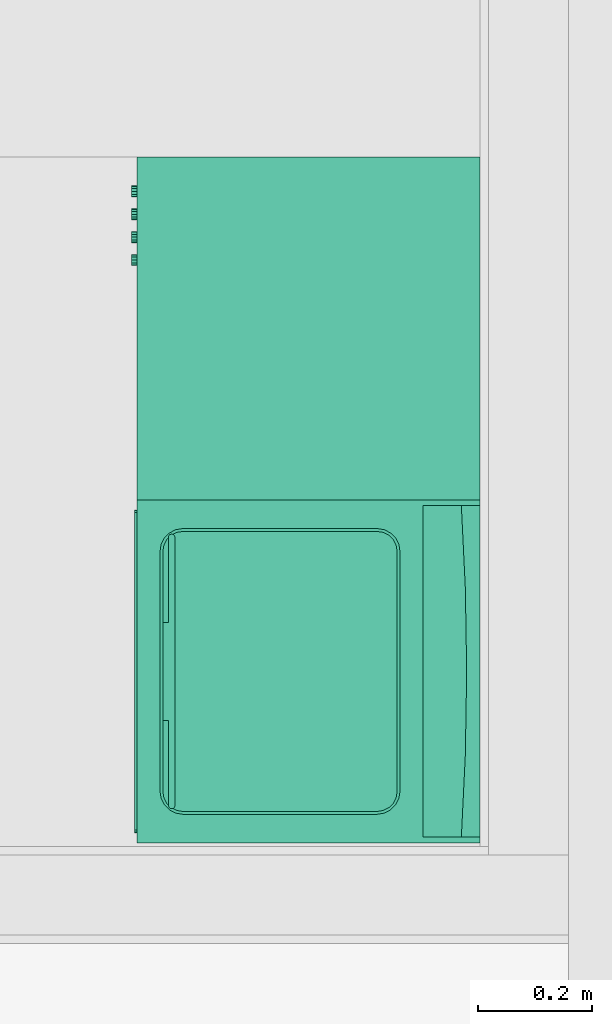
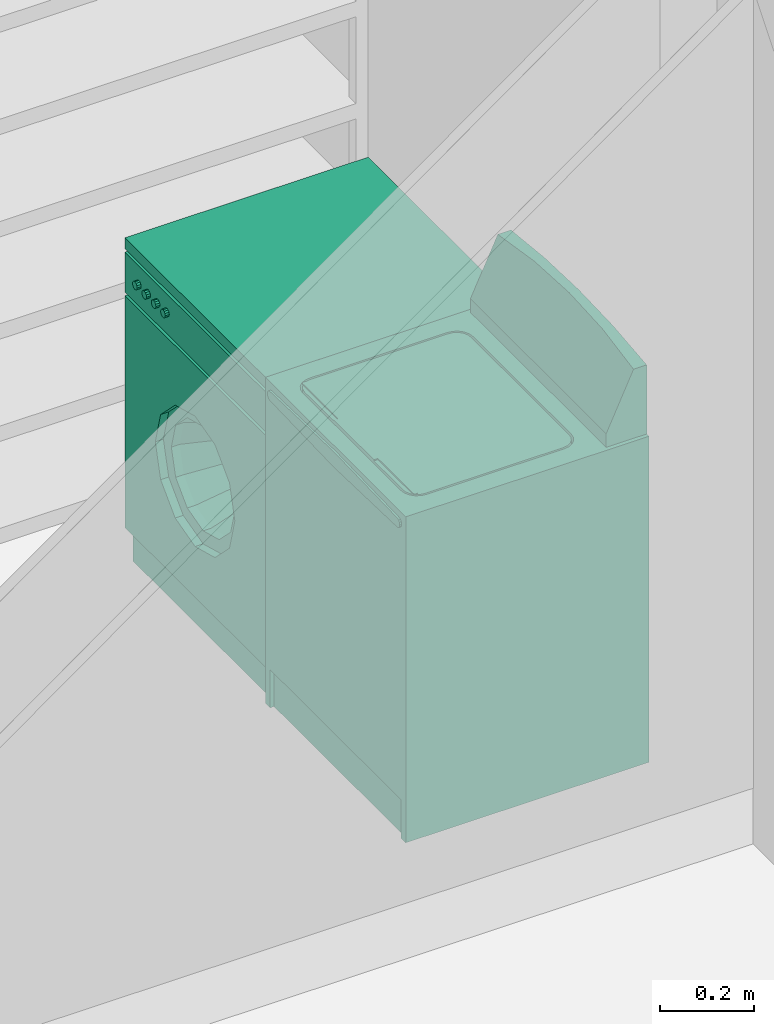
# One storey, part 18 of 24: 2 flow terminals.
"""IFC2X3 building model written with IfcOpenShell, lengths in metres."""

from ifc_helpers import new_model, entity, si_unit, converted_unit, derived_unit, money_unit, direction, frame, origin_with_axes, place, context, subcontext, project, spatial, open_shell, faceted_brep, surface_model, type_object, element, save


model = new_model("IFC2X3")

# Units and contexts
model_context = context("Model", 3, precision=1e-05, world=origin_with_axes(), true_north=direction((0.0, 1.0)))
body_context = subcontext(model_context, "Body", "Model", "MODEL_VIEW")
ifc_project = project(units=[si_unit("LENGTHUNIT", "METRE"), si_unit("AREAUNIT", "SQUARE_METRE"), si_unit("VOLUMEUNIT", "CUBIC_METRE"), converted_unit("PLANEANGLEUNIT", "DEGREE", entity("IfcPlaneAngleMeasure", 0.0174532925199), si_unit("PLANEANGLEUNIT", "RADIAN"), dimensions=[0, 0, 0, 0, 0, 0, 0]), si_unit("SOLIDANGLEUNIT", "STERADIAN"), money_unit("CHF"), converted_unit("TIMEUNIT", "Year", entity("IfcTimeMeasure", 31556926.0), si_unit("TIMEUNIT", "SECOND"), dimensions=[0, 0, 1, 0, 0, 0, 0]), si_unit("MASSUNIT", "GRAM", prefix="KILO"), si_unit("THERMODYNAMICTEMPERATUREUNIT", "DEGREE_CELSIUS"), si_unit("LUMINOUSINTENSITYUNIT", "LUMEN"), si_unit("ENERGYUNIT", "JOULE", prefix="MEGA"), derived_unit("THERMALCONDUCTANCEUNIT", [(si_unit("POWERUNIT", "WATT"), 1), (si_unit("LENGTHUNIT", "METRE"), -1), (si_unit("THERMODYNAMICTEMPERATUREUNIT", "KELVIN"), -1)]), derived_unit("SPECIFICHEATCAPACITYUNIT", [(si_unit("ENERGYUNIT", "JOULE"), 1), (si_unit("MASSUNIT", "GRAM", prefix="KILO"), -1), (si_unit("THERMODYNAMICTEMPERATUREUNIT", "KELVIN"), -1)]), derived_unit("MASSDENSITYUNIT", [(si_unit("MASSUNIT", "GRAM", prefix="KILO"), 1), (si_unit("VOLUMEUNIT", "CUBIC_METRE"), -1)])], contexts=[model_context])

# Site, building, storey
site_placement = place(None, origin_with_axes())
site = spatial("IfcSite", under=ifc_project, at=site_placement, Name="Site", CompositionType="ELEMENT")
building_placement = place(site_placement, origin_with_axes())
building = spatial("IfcBuilding", under=site, at=building_placement, Name="Bâtiment", CompositionType="ELEMENT")
storey_placement = place(building_placement, origin_with_axes())
storey = spatial("IfcBuildingStorey", under=building, at=storey_placement, Name="Rez-de-chaussée", CompositionType="ELEMENT", Elevation=0.0)

# Flow terminals
sanitary_terminal_type = type_object("IfcSanitaryTerminalType", Name="Lave linge 24", PredefinedType="TOILETPAN")
flow_terminal_1_placement = place(storey_placement, frame((31.1171417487, 15.3879346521, 0.16), z_axis=(0.0, 0.0, 1.0), x_axis=(0.0, -1.0, 0.0)))
element("IfcFlowTerminal", 1, at=flow_terminal_1_placement, inside=storey, type_object=sanitary_terminal_type, Name="MOBILIER-010", context=body_context, shape_type="SurfaceModel", body=[
    faceted_brep([(-0.3, -0.58, 0.0944444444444), (0.3, -0.58, 0.0944444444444), (0.3, -0.6, 0.0944444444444), (-0.3, -0.6, 0.0944444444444), (-0.3, -0.58, 0.698888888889), (0.3, -0.58, 0.698888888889), (0.17, -0.58, 0.396666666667), (0.147224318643, -0.58, 0.481666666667), (0.085, -0.58, 0.54389098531), (0.0, -0.58, 0.566666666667), (-0.085, -0.58, 0.54389098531), (-0.147224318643, -0.58, 0.481666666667), (-0.17, -0.58, 0.396666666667), (-0.147224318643, -0.58, 0.311666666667), (-0.085, -0.58, 0.249442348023), (0.0, -0.58, 0.226666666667), (0.085, -0.58, 0.249442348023), (0.147224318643, -0.58, 0.311666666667), (0.3, -0.6, 0.698888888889), (-0.3, -0.6, 0.698888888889), (0.17, -0.6, 0.396666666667), (0.147224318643, -0.6, 0.311666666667), (0.085, -0.6, 0.249442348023), (0.0, -0.6, 0.226666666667), (-0.085, -0.6, 0.249442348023), (-0.147224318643, -0.6, 0.311666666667), (-0.17, -0.6, 0.396666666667), (-0.147224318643, -0.6, 0.481666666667), (-0.085, -0.6, 0.54389098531), (0.0, -0.6, 0.566666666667), (0.085, -0.6, 0.54389098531), (0.147224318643, -0.6, 0.481666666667)], [[[0, 1, 2, 3]], [[0, 4, 5, 1], [6, 7, 8, 9, 10, 11, 12, 13, 14, 15, 16, 17]], [[1, 5, 18, 2]], [[3, 2, 18, 19], [20, 21, 22, 23, 24, 25, 26, 27, 28, 29, 30, 31]], [[4, 0, 3, 19]], [[5, 4, 19, 18]], [[7, 6, 20, 31]], [[8, 7, 31, 30]], [[9, 8, 30, 29]], [[10, 9, 29, 28]], [[11, 10, 28, 27]], [[12, 11, 27, 26]], [[13, 12, 26, 25]], [[14, 13, 25, 24]], [[15, 14, 24, 23]], [[16, 15, 23, 22]], [[17, 16, 22, 21]], [[6, 17, 21, 20]]]),
    faceted_brep([(0.17, -0.56, 0.396666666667), (0.147224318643, -0.56, 0.481666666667), (0.147224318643, -0.58, 0.481666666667), (0.17, -0.58, 0.396666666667), (0.147224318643, -0.56, 0.311666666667), (0.085, -0.56, 0.249442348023), (0.0, -0.56, 0.226666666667), (-0.085, -0.56, 0.249442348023), (-0.147224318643, -0.56, 0.311666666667), (-0.17, -0.56, 0.396666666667), (-0.147224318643, -0.56, 0.481666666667), (-0.085, -0.56, 0.54389098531), (0.0, -0.56, 0.566666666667), (0.085, -0.56, 0.54389098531), (0.136, -0.56, 0.396666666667), (0.117779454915, -0.56, 0.464666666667), (0.068, -0.56, 0.514446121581), (0.0, -0.56, 0.532666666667), (-0.068, -0.56, 0.514446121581), (-0.117779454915, -0.56, 0.464666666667), (-0.136, -0.56, 0.396666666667), (-0.117779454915, -0.56, 0.328666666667), (-0.068, -0.56, 0.278887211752), (0.0, -0.56, 0.260666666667), (0.068, -0.56, 0.278887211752), (0.117779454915, -0.56, 0.328666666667), (0.085, -0.58, 0.54389098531), (0.0, -0.58, 0.566666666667), (-0.085, -0.58, 0.54389098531), (-0.147224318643, -0.58, 0.481666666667), (-0.17, -0.58, 0.396666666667), (-0.147224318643, -0.58, 0.311666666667), (-0.085, -0.58, 0.249442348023), (0.0, -0.58, 0.226666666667), (0.085, -0.58, 0.249442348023), (0.147224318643, -0.58, 0.311666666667), (0.136, -0.58, 0.396666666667), (0.117779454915, -0.58, 0.328666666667), (0.068, -0.58, 0.278887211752), (0.0, -0.58, 0.260666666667), (-0.068, -0.58, 0.278887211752), (-0.117779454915, -0.58, 0.328666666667), (-0.136, -0.58, 0.396666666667), (-0.117779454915, -0.58, 0.464666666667), (-0.068, -0.58, 0.514446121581), (0.0, -0.58, 0.532666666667), (0.068, -0.58, 0.514446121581), (0.117779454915, -0.58, 0.464666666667)], [[[0, 1, 2, 3]], [[0, 4, 5, 6, 7, 8, 9, 10, 11, 12, 13, 1], [14, 15, 16, 17, 18, 19, 20, 21, 22, 23, 24, 25]], [[1, 13, 26, 2]], [[3, 2, 26, 27, 28, 29, 30, 31, 32, 33, 34, 35], [36, 37, 38, 39, 40, 41, 42, 43, 44, 45, 46, 47]], [[4, 0, 3, 35]], [[5, 4, 35, 34]], [[6, 5, 34, 33]], [[7, 6, 33, 32]], [[8, 7, 32, 31]], [[9, 8, 31, 30]], [[10, 9, 30, 29]], [[11, 10, 29, 28]], [[12, 11, 28, 27]], [[13, 12, 27, 26]], [[15, 14, 36, 47]], [[16, 15, 47, 46]], [[17, 16, 46, 45]], [[18, 17, 45, 44]], [[19, 18, 44, 43]], [[20, 19, 43, 42]], [[21, 20, 42, 41]], [[22, 21, 41, 40]], [[23, 22, 40, 39]], [[24, 23, 39, 38]], [[25, 24, 38, 37]], [[14, 25, 37, 36]]]),
    surface_model("IfcShellBasedSurfaceModel", [(-0.068, -0.56, 0.514446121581), (0.0, -0.56, 0.532666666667), (0.0, -0.46, 0.498666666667), (-0.051, -0.46, 0.485001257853), (0.068, -0.56, 0.514446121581), (0.051, -0.46, 0.485001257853), (0.088334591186, -0.46, 0.447666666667), (0.102, -0.46, 0.396666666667), (0.088334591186, -0.46, 0.345666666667), (0.051, -0.46, 0.308332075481), (0.0, -0.46, 0.294666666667), (-0.051, -0.46, 0.308332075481), (-0.088334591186, -0.46, 0.345666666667), (-0.102, -0.46, 0.396666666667), (-0.088334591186, -0.46, 0.447666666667), (-0.117779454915, -0.56, 0.464666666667), (0.117779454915, -0.56, 0.464666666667), (0.136, -0.56, 0.396666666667), (0.117779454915, -0.56, 0.328666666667), (0.068, -0.56, 0.278887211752), (0.0, -0.56, 0.260666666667), (-0.068, -0.56, 0.278887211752), (-0.117779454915, -0.56, 0.328666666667), (-0.136, -0.56, 0.396666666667)], [open_shell([[[0, 1, 2, 3]], [[1, 4, 5, 2]], [[2, 5, 6, 7, 8, 9, 10, 11, 12, 13, 14, 3]], [[15, 0, 3, 14]], [[4, 16, 6, 5]], [[16, 17, 7, 6]], [[17, 18, 8, 7]], [[18, 19, 9, 8]], [[19, 20, 10, 9]], [[20, 21, 11, 10]], [[21, 22, 12, 11]], [[22, 23, 13, 12]], [[23, 15, 14, 13]]])]),
    surface_model("IfcShellBasedSurfaceModel", [(-0.3, -0.58, 0.0944444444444), (-0.3, -0.58, 0.821666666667), (-0.3, 0.0, 0.821666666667), (-0.3, 0.0, 0.0944444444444)], [open_shell([[[0, 1, 2, 3]]])]),
    surface_model("IfcShellBasedSurfaceModel", [(0.3, -0.58, 0.0944444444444), (0.3, -0.58, 0.821666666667), (0.3, 0.0, 0.821666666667), (0.3, 0.0, 0.0944444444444)], [open_shell([[[0, 1, 2, 3]]])]),
    surface_model("IfcShellBasedSurfaceModel", [(-0.3, 0.0, 0.0944444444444), (-0.3, 0.0, 0.821666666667), (0.3, 0.0, 0.821666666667), (0.3, 0.0, 0.0944444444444)], [open_shell([[[0, 1, 2, 3]]])]),
    faceted_brep([(-0.3, -0.58, 0.0), (0.3, -0.58, 0.0), (0.3, -0.58, 0.0944444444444), (-0.3, -0.58, 0.0944444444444), (-0.3, 0.0, 0.0), (0.3, 0.0, 0.0), (0.3, 0.0, 0.0944444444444), (-0.3, 0.0, 0.0944444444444)], [[[0, 1, 2, 3]], [[0, 4, 5, 1]], [[1, 5, 6, 2]], [[3, 2, 6, 7]], [[4, 0, 3, 7]], [[5, 4, 7, 6]]]),
    faceted_brep([(-0.3, -0.58, 0.708333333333), (0.3, -0.58, 0.708333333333), (0.3, -0.6, 0.708333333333), (-0.3, -0.6, 0.708333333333), (-0.3, -0.58, 0.812222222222), (0.3, -0.58, 0.812222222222), (0.3, -0.6, 0.812222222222), (-0.3, -0.6, 0.812222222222)], [[[0, 1, 2, 3]], [[0, 4, 5, 1]], [[1, 5, 6, 2]], [[3, 2, 6, 7]], [[4, 0, 3, 7]], [[5, 4, 7, 6]]]),
    surface_model("IfcShellBasedSurfaceModel", [(-0.3, -0.58, 0.698888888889), (-0.3, -0.58, 0.821666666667), (0.3, -0.58, 0.821666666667), (0.3, -0.58, 0.698888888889)], [open_shell([[[0, 1, 2, 3]]])]),
    faceted_brep([(-0.3, -0.6, 0.821666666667), (0.3, -0.6, 0.821666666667), (0.3, -0.6, 0.85), (-0.3, -0.6, 0.85), (-0.3, 0.0, 0.821666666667), (0.3, 0.0, 0.821666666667), (0.3, 0.0, 0.85), (-0.3, 0.0, 0.85)], [[[0, 1, 2, 3]], [[0, 4, 5, 1]], [[1, 5, 6, 2]], [[3, 2, 6, 7]], [[4, 0, 3, 7]], [[5, 4, 7, 6]]]),
    faceted_brep([(-0.231339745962, -0.6, 0.76), (-0.235, -0.6, 0.756339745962), (-0.24, -0.6, 0.755), (-0.245, -0.6, 0.756339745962), (-0.248660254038, -0.6, 0.76), (-0.25, -0.6, 0.765), (-0.248660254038, -0.6, 0.77), (-0.245, -0.6, 0.773660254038), (-0.24, -0.6, 0.775), (-0.235, -0.6, 0.773660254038), (-0.231339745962, -0.6, 0.77), (-0.23, -0.6, 0.765), (-0.231339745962, -0.61, 0.76), (-0.235, -0.61, 0.756339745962), (-0.24, -0.61, 0.755), (-0.245, -0.61, 0.756339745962), (-0.248660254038, -0.61, 0.76), (-0.25, -0.61, 0.765), (-0.248660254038, -0.61, 0.77), (-0.245, -0.61, 0.773660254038), (-0.24, -0.61, 0.775), (-0.235, -0.61, 0.773660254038), (-0.231339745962, -0.61, 0.77), (-0.23, -0.61, 0.765)], [[[0, 1, 2, 3, 4, 5, 6, 7, 8, 9, 10, 11]], [[1, 0, 12, 13]], [[2, 1, 13, 14]], [[3, 2, 14, 15]], [[4, 3, 15, 16]], [[5, 4, 16, 17]], [[6, 5, 17, 18]], [[7, 6, 18, 19]], [[8, 7, 19, 20]], [[9, 8, 20, 21]], [[10, 9, 21, 22]], [[11, 10, 22, 23]], [[0, 11, 23, 12]], [[12, 23, 22, 21, 20, 19, 18, 17, 16, 15, 14, 13]]]),
    faceted_brep([(-0.191339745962, -0.6, 0.76), (-0.195, -0.6, 0.756339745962), (-0.2, -0.6, 0.755), (-0.205, -0.6, 0.756339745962), (-0.208660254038, -0.6, 0.76), (-0.21, -0.6, 0.765), (-0.208660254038, -0.6, 0.77), (-0.205, -0.6, 0.773660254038), (-0.2, -0.6, 0.775), (-0.195, -0.6, 0.773660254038), (-0.191339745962, -0.6, 0.77), (-0.19, -0.6, 0.765), (-0.191339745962, -0.61, 0.76), (-0.195, -0.61, 0.756339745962), (-0.2, -0.61, 0.755), (-0.205, -0.61, 0.756339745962), (-0.208660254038, -0.61, 0.76), (-0.21, -0.61, 0.765), (-0.208660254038, -0.61, 0.77), (-0.205, -0.61, 0.773660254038), (-0.2, -0.61, 0.775), (-0.195, -0.61, 0.773660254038), (-0.191339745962, -0.61, 0.77), (-0.19, -0.61, 0.765)], [[[0, 1, 2, 3, 4, 5, 6, 7, 8, 9, 10, 11]], [[1, 0, 12, 13]], [[2, 1, 13, 14]], [[3, 2, 14, 15]], [[4, 3, 15, 16]], [[5, 4, 16, 17]], [[6, 5, 17, 18]], [[7, 6, 18, 19]], [[8, 7, 19, 20]], [[9, 8, 20, 21]], [[10, 9, 21, 22]], [[11, 10, 22, 23]], [[0, 11, 23, 12]], [[12, 23, 22, 21, 20, 19, 18, 17, 16, 15, 14, 13]]]),
    faceted_brep([(-0.151339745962, -0.6, 0.76), (-0.155, -0.6, 0.756339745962), (-0.16, -0.6, 0.755), (-0.165, -0.6, 0.756339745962), (-0.168660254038, -0.6, 0.76), (-0.17, -0.6, 0.765), (-0.168660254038, -0.6, 0.77), (-0.165, -0.6, 0.773660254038), (-0.16, -0.6, 0.775), (-0.155, -0.6, 0.773660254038), (-0.151339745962, -0.6, 0.77), (-0.15, -0.6, 0.765), (-0.151339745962, -0.61, 0.76), (-0.155, -0.61, 0.756339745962), (-0.16, -0.61, 0.755), (-0.165, -0.61, 0.756339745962), (-0.168660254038, -0.61, 0.76), (-0.17, -0.61, 0.765), (-0.168660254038, -0.61, 0.77), (-0.165, -0.61, 0.773660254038), (-0.16, -0.61, 0.775), (-0.155, -0.61, 0.773660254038), (-0.151339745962, -0.61, 0.77), (-0.15, -0.61, 0.765)], [[[0, 1, 2, 3, 4, 5, 6, 7, 8, 9, 10, 11]], [[1, 0, 12, 13]], [[2, 1, 13, 14]], [[3, 2, 14, 15]], [[4, 3, 15, 16]], [[5, 4, 16, 17]], [[6, 5, 17, 18]], [[7, 6, 18, 19]], [[8, 7, 19, 20]], [[9, 8, 20, 21]], [[10, 9, 21, 22]], [[11, 10, 22, 23]], [[0, 11, 23, 12]], [[12, 23, 22, 21, 20, 19, 18, 17, 16, 15, 14, 13]]]),
    faceted_brep([(-0.111339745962, -0.6, 0.76), (-0.115, -0.6, 0.756339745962), (-0.12, -0.6, 0.755), (-0.125, -0.6, 0.756339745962), (-0.128660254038, -0.6, 0.76), (-0.13, -0.6, 0.765), (-0.128660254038, -0.6, 0.77), (-0.125, -0.6, 0.773660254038), (-0.12, -0.6, 0.775), (-0.115, -0.6, 0.773660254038), (-0.111339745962, -0.6, 0.77), (-0.11, -0.6, 0.765), (-0.111339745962, -0.61, 0.76), (-0.115, -0.61, 0.756339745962), (-0.12, -0.61, 0.755), (-0.125, -0.61, 0.756339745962), (-0.128660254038, -0.61, 0.76), (-0.13, -0.61, 0.765), (-0.128660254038, -0.61, 0.77), (-0.125, -0.61, 0.773660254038), (-0.12, -0.61, 0.775), (-0.115, -0.61, 0.773660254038), (-0.111339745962, -0.61, 0.77), (-0.11, -0.61, 0.765)], [[[0, 1, 2, 3, 4, 5, 6, 7, 8, 9, 10, 11]], [[1, 0, 12, 13]], [[2, 1, 13, 14]], [[3, 2, 14, 15]], [[4, 3, 15, 16]], [[5, 4, 16, 17]], [[6, 5, 17, 18]], [[7, 6, 18, 19]], [[8, 7, 19, 20]], [[9, 8, 20, 21]], [[10, 9, 21, 22]], [[11, 10, 22, 23]], [[0, 11, 23, 12]], [[12, 23, 22, 21, 20, 19, 18, 17, 16, 15, 14, 13]]]),
])
flow_terminal_2_placement = place(storey_placement, frame((31.1171417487, 14.7879346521, 0.16), z_axis=(0.0, 0.0, 1.0), x_axis=(0.0, -1.0, 0.0)))
element("IfcFlowTerminal", 2, at=flow_terminal_2_placement, inside=storey, type_object=sanitary_terminal_type, Name="MOBILIER-010", context=body_context, shape_type="Brep", body=[
    faceted_brep([(0.3, 0.0, 0.0), (-0.3, 0.0, 0.0), (-0.3, 0.0, 0.1), (0.3, 0.0, 0.1), (0.3, -0.6, 0.0), (0.28, -0.6, 0.0), (0.28, -0.59, 0.0), (-0.28, -0.59, 0.0), (-0.28, -0.6, 0.0), (-0.3, -0.6, 0.0), (-0.3, -0.6, 0.1), (-0.28, -0.6, 0.1), (-0.28, -0.59, 0.1), (0.28, -0.59, 0.1), (0.28, -0.6, 0.1), (0.3, -0.6, 0.1)], [[[0, 1, 2, 3]], [[0, 4, 5, 6, 7, 8, 9, 1]], [[1, 9, 10, 2]], [[3, 2, 10, 11, 12, 13, 14, 15]], [[4, 0, 3, 15]], [[5, 4, 15, 14]], [[6, 5, 14, 13]], [[7, 6, 13, 12]], [[8, 7, 12, 11]], [[9, 8, 11, 10]]]),
    faceted_brep([(0.3, 0.0, 0.1), (-0.3, 0.0, 0.1), (-0.3, 0.0, 0.82), (0.3, 0.0, 0.82), (0.3, -0.6, 0.1), (-0.3, -0.6, 0.1), (-0.3, -0.6, 0.82), (0.3, -0.6, 0.82)], [[[0, 1, 2, 3]], [[0, 4, 5, 1]], [[1, 5, 6, 2]], [[3, 2, 6, 7]], [[4, 0, 3, 7]], [[5, 4, 7, 6]]]),
    faceted_brep([(0.3, 0.0, 0.82), (-0.3, 0.0, 0.82), (-0.3, 0.0, 0.85), (0.3, 0.0, 0.85), (0.3, -0.6, 0.82), (-0.3, -0.6, 0.82), (0.25, -0.18, 0.82), (0.248042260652, -0.167639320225, 0.82), (0.242360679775, -0.156488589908, 0.82), (0.233511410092, -0.147639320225, 0.82), (0.222360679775, -0.141957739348, 0.82), (0.21, -0.14, 0.82), (-0.21, -0.14, 0.82), (-0.222360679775, -0.141957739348, 0.82), (-0.233511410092, -0.147639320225, 0.82), (-0.242360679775, -0.156488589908, 0.82), (-0.248042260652, -0.167639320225, 0.82), (-0.25, -0.18, 0.82), (-0.25, -0.52, 0.82), (-0.248042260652, -0.532360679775, 0.82), (-0.242360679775, -0.543511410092, 0.82), (-0.233511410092, -0.552360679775, 0.82), (-0.222360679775, -0.558042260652, 0.82), (-0.21, -0.56, 0.82), (0.21, -0.56, 0.82), (0.222360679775, -0.558042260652, 0.82), (0.233511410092, -0.552360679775, 0.82), (0.242360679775, -0.543511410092, 0.82), (0.248042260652, -0.532360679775, 0.82), (0.25, -0.52, 0.82), (-0.3, -0.6, 0.85), (0.3, -0.6, 0.85), (0.25, -0.18, 0.85), (0.25, -0.52, 0.85), (0.248042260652, -0.532360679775, 0.85), (0.242360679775, -0.543511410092, 0.85), (0.233511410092, -0.552360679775, 0.85), (0.222360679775, -0.558042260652, 0.85), (0.21, -0.56, 0.85), (-0.21, -0.56, 0.85), (-0.222360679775, -0.558042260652, 0.85), (-0.233511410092, -0.552360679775, 0.85), (-0.242360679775, -0.543511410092, 0.85), (-0.248042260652, -0.532360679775, 0.85), (-0.25, -0.52, 0.85), (-0.25, -0.18, 0.85), (-0.248042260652, -0.167639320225, 0.85), (-0.242360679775, -0.156488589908, 0.85), (-0.233511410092, -0.147639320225, 0.85), (-0.222360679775, -0.141957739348, 0.85), (-0.21, -0.14, 0.85), (0.21, -0.14, 0.85), (0.222360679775, -0.141957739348, 0.85), (0.233511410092, -0.147639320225, 0.85), (0.242360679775, -0.156488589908, 0.85), (0.248042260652, -0.167639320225, 0.85)], [[[0, 1, 2, 3]], [[0, 4, 5, 1], [6, 7, 8, 9, 10, 11, 12, 13, 14, 15, 16, 17, 18, 19, 20, 21, 22, 23, 24, 25, 26, 27, 28, 29]], [[1, 5, 30, 2]], [[3, 2, 30, 31], [32, 33, 34, 35, 36, 37, 38, 39, 40, 41, 42, 43, 44, 45, 46, 47, 48, 49, 50, 51, 52, 53, 54, 55]], [[4, 0, 3, 31]], [[5, 4, 31, 30]], [[7, 6, 32, 55]], [[8, 7, 55, 54]], [[9, 8, 54, 53]], [[10, 9, 53, 52]], [[11, 10, 52, 51]], [[12, 11, 51, 50]], [[13, 12, 50, 49]], [[14, 13, 49, 48]], [[15, 14, 48, 47]], [[16, 15, 47, 46]], [[17, 16, 46, 45]], [[18, 17, 45, 44]], [[19, 18, 44, 43]], [[20, 19, 43, 42]], [[21, 20, 42, 41]], [[22, 21, 41, 40]], [[23, 22, 40, 39]], [[24, 23, 39, 38]], [[25, 24, 38, 37]], [[26, 25, 37, 36]], [[27, 26, 36, 35]], [[28, 27, 35, 34]], [[29, 28, 34, 33]], [[6, 29, 33, 32]]]),
    faceted_brep([(0.245, -0.18, 0.82), (0.24328697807, -0.169184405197, 0.82), (0.24328697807, -0.169184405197, 0.85), (0.245, -0.18, 0.85), (0.245, -0.52, 0.82), (0.24328697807, -0.530815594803, 0.82), (0.238315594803, -0.54057248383, 0.82), (0.23057248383, -0.548315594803, 0.82), (0.220815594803, -0.55328697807, 0.82), (0.21, -0.555, 0.82), (-0.21, -0.555, 0.82), (-0.220815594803, -0.55328697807, 0.82), (-0.23057248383, -0.548315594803, 0.82), (-0.238315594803, -0.54057248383, 0.82), (-0.24328697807, -0.530815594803, 0.82), (-0.245, -0.52, 0.82), (-0.245, -0.18, 0.82), (-0.24328697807, -0.169184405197, 0.82), (-0.238315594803, -0.15942751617, 0.82), (-0.23057248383, -0.151684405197, 0.82), (-0.220815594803, -0.14671302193, 0.82), (-0.21, -0.145, 0.82), (0.21, -0.145, 0.82), (0.220815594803, -0.14671302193, 0.82), (0.23057248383, -0.151684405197, 0.82), (0.238315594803, -0.15942751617, 0.82), (0.238315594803, -0.15942751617, 0.85), (0.23057248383, -0.151684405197, 0.85), (0.220815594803, -0.14671302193, 0.85), (0.21, -0.145, 0.85), (-0.21, -0.145, 0.85), (-0.220815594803, -0.14671302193, 0.85), (-0.23057248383, -0.151684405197, 0.85), (-0.238315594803, -0.15942751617, 0.85), (-0.24328697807, -0.169184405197, 0.85), (-0.245, -0.18, 0.85), (-0.245, -0.52, 0.85), (-0.24328697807, -0.530815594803, 0.85), (-0.238315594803, -0.54057248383, 0.85), (-0.23057248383, -0.548315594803, 0.85), (-0.220815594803, -0.55328697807, 0.85), (-0.21, -0.555, 0.85), (0.21, -0.555, 0.85), (0.220815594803, -0.55328697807, 0.85), (0.23057248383, -0.548315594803, 0.85), (0.238315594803, -0.54057248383, 0.85), (0.24328697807, -0.530815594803, 0.85), (0.245, -0.52, 0.85)], [[[0, 1, 2, 3]], [[0, 4, 5, 6, 7, 8, 9, 10, 11, 12, 13, 14, 15, 16, 17, 18, 19, 20, 21, 22, 23, 24, 25, 1]], [[1, 25, 26, 2]], [[3, 2, 26, 27, 28, 29, 30, 31, 32, 33, 34, 35, 36, 37, 38, 39, 40, 41, 42, 43, 44, 45, 46, 47]], [[4, 0, 3, 47]], [[5, 4, 47, 46]], [[6, 5, 46, 45]], [[7, 6, 45, 44]], [[8, 7, 44, 43]], [[9, 8, 43, 42]], [[10, 9, 42, 41]], [[11, 10, 41, 40]], [[12, 11, 40, 39]], [[13, 12, 39, 38]], [[14, 13, 38, 37]], [[15, 14, 37, 36]], [[16, 15, 36, 35]], [[17, 16, 35, 34]], [[18, 17, 34, 33]], [[19, 18, 33, 32]], [[20, 19, 32, 31]], [[21, 20, 31, 30]], [[22, 21, 30, 29]], [[23, 22, 29, 28]], [[24, 23, 28, 27]], [[25, 24, 27, 26]]]),
    faceted_brep([(-0.29, 0.0, 0.85), (-0.191154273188, 0.0, 0.85), (-0.191154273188, -0.1, 0.85), (-0.29, -0.1, 0.85), (-0.29, 0.0, 1.03), (-0.240752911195, 0.0, 1.03510463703), (-0.240752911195, -0.0302612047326, 1.03510463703), (-0.200679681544, -0.1, 0.885549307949), (-0.29, -0.1, 0.885549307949), (-0.29, -0.0326415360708, 1.03)], [[[0, 1, 2, 3]], [[0, 4, 5, 1]], [[1, 5, 6, 7, 2]], [[3, 2, 7, 8]], [[4, 0, 3, 8, 9]], [[5, 4, 9, 6]], [[6, 9, 8, 7]]]),
    faceted_brep([(0.191154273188, 0.0, 0.85), (0.29, 0.0, 0.85), (0.29, -0.1, 0.85), (0.191154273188, -0.1, 0.85), (0.240752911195, 0.0, 1.03510463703), (0.29, 0.0, 1.03), (0.29, -0.0326415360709, 1.03), (0.29, -0.1, 0.885549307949), (0.200679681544, -0.1, 0.885549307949), (0.240752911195, -0.0302612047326, 1.03510463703)], [[[0, 1, 2, 3]], [[4, 5, 1, 0]], [[1, 5, 6, 7, 2]], [[3, 2, 7, 8]], [[0, 3, 8, 9, 4]], [[5, 4, 9, 6]], [[7, 6, 9, 8]]]),
    faceted_brep([(-0.191154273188, 0.0, 0.85), (0.191154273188, 0.0, 0.85), (0.191154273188, -0.1, 0.85), (-0.191154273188, -0.1, 0.85), (-0.240752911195, 0.0, 1.03510463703), (-0.145344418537, 0.0, 1.04499406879), (0.0, 0.0, 1.05), (0.145344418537, 0.0, 1.04499406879), (0.240752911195, 0.0, 1.03510463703), (0.240752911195, -0.0302612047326, 1.03510463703), (0.200679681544, -0.1, 0.885549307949), (-0.200679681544, -0.1, 0.885549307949), (-0.240752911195, -0.0302612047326, 1.03510463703), (-0.145344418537, -0.0256496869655, 1.04499406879), (0.0, -0.0233153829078, 1.05), (0.145344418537, -0.0256496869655, 1.04499406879)], [[[0, 1, 2, 3]], [[4, 5, 6, 7, 8, 1, 0]], [[1, 8, 9, 10, 2]], [[3, 2, 10, 11]], [[0, 3, 11, 12, 4]], [[5, 4, 12, 13]], [[6, 5, 13, 14]], [[7, 6, 14, 15]], [[8, 7, 15, 9]], [[9, 15, 14, 13, 12, 11, 10]]]),
    faceted_brep([(0.0, -0.6, 0.84), (-0.273, -0.6, 0.8318), (-0.273, -0.605, 0.8318), (0.0, -0.605, 0.84), (0.273, -0.6, 0.8318), (0.277840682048, -0.6, 0.830023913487), (0.281335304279, -0.6, 0.82573137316), (0.282606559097, -0.6, 0.82), (0.281335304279, -0.6, 0.81426862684), (0.277840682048, -0.6, 0.809976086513), (0.273, -0.6, 0.8082), (0.0, -0.6, 0.8), (-0.273, -0.6, 0.8082), (-0.277840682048, -0.6, 0.809976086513), (-0.281335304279, -0.6, 0.81426862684), (-0.282606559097, -0.6, 0.82), (-0.281335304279, -0.6, 0.82573137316), (-0.277840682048, -0.6, 0.830023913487), (-0.277840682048, -0.605, 0.830023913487), (-0.281335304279, -0.605, 0.82573137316), (-0.282606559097, -0.605, 0.82), (-0.281335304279, -0.605, 0.81426862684), (-0.277840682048, -0.605, 0.809976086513), (-0.273, -0.605, 0.8082), (0.0, -0.605, 0.8), (0.273, -0.605, 0.8082), (0.277840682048, -0.605, 0.809976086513), (0.281335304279, -0.605, 0.81426862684), (0.282606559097, -0.605, 0.82), (0.281335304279, -0.605, 0.82573137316), (0.277840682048, -0.605, 0.830023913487), (0.273, -0.605, 0.8318)], [[[0, 1, 2, 3]], [[0, 4, 5, 6, 7, 8, 9, 10, 11, 12, 13, 14, 15, 16, 17, 1]], [[1, 17, 18, 2]], [[3, 2, 18, 19, 20, 21, 22, 23, 24, 25, 26, 27, 28, 29, 30, 31]], [[4, 0, 3, 31]], [[5, 4, 31, 30]], [[6, 5, 30, 29]], [[7, 6, 29, 28]], [[8, 7, 28, 27]], [[9, 8, 27, 26]], [[10, 9, 26, 25]], [[11, 10, 25, 24]], [[12, 11, 24, 23]], [[13, 12, 23, 22]], [[14, 13, 22, 21]], [[15, 14, 21, 20]], [[16, 15, 20, 19]], [[17, 16, 19, 18]]]),
    faceted_brep([(-0.236123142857, -0.534182, 0.85), (-0.238326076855, -0.53509859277, 0.85), (-0.238326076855, -0.53509859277, 0.853), (-0.236123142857, -0.534182, 0.853), (0.236123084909, -0.534183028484, 0.85), (0.238325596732, -0.53509945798, 0.85), (0.239866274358, -0.537151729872, 0.85), (0.240354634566, -0.539819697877, 0.85), (0.239666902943, -0.542427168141, 0.85), (0.23797738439, -0.544313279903, 0.85), (0.235714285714, -0.545, 0.85), (0.0857142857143, -0.545, 0.85), (0.0857142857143, -0.555, 0.85), (-0.0857142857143, -0.555, 0.85), (-0.0857142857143, -0.545, 0.85), (-0.235714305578, -0.545001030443, 0.85), (-0.237977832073, -0.544314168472, 0.85), (-0.23966766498, -0.54242768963, 0.85), (-0.24035551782, -0.539819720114, 0.85), (-0.239867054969, -0.537151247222, 0.85), (-0.239867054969, -0.537151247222, 0.853), (-0.24035551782, -0.539819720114, 0.853), (-0.23966766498, -0.54242768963, 0.853), (-0.237977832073, -0.544314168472, 0.853), (-0.235714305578, -0.545001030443, 0.853), (-0.0857142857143, -0.545, 0.853), (-0.0857142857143, -0.555, 0.853), (0.0857142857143, -0.555, 0.853), (0.0857142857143, -0.545, 0.853), (0.235714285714, -0.545, 0.853), (0.23797738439, -0.544313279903, 0.853), (0.239666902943, -0.542427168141, 0.853), (0.240354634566, -0.539819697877, 0.853), (0.239866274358, -0.537151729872, 0.853), (0.238325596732, -0.53509945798, 0.853), (0.236123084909, -0.534183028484, 0.853)], [[[0, 1, 2, 3]], [[0, 4, 5, 6, 7, 8, 9, 10, 11, 12, 13, 14, 15, 16, 17, 18, 19, 1]], [[1, 19, 20, 2]], [[3, 2, 20, 21, 22, 23, 24, 25, 26, 27, 28, 29, 30, 31, 32, 33, 34, 35]], [[4, 0, 3, 35]], [[5, 4, 35, 34]], [[6, 5, 34, 33]], [[7, 6, 33, 32]], [[8, 7, 32, 31]], [[9, 8, 31, 30]], [[10, 9, 30, 29]], [[11, 10, 29, 28]], [[12, 11, 28, 27]], [[13, 12, 27, 26]], [[14, 13, 26, 25]], [[15, 14, 25, 24]], [[16, 15, 24, 23]], [[17, 16, 23, 22]], [[18, 17, 22, 21]], [[19, 18, 21, 20]]]),
])

save(model, "model.ifc")
